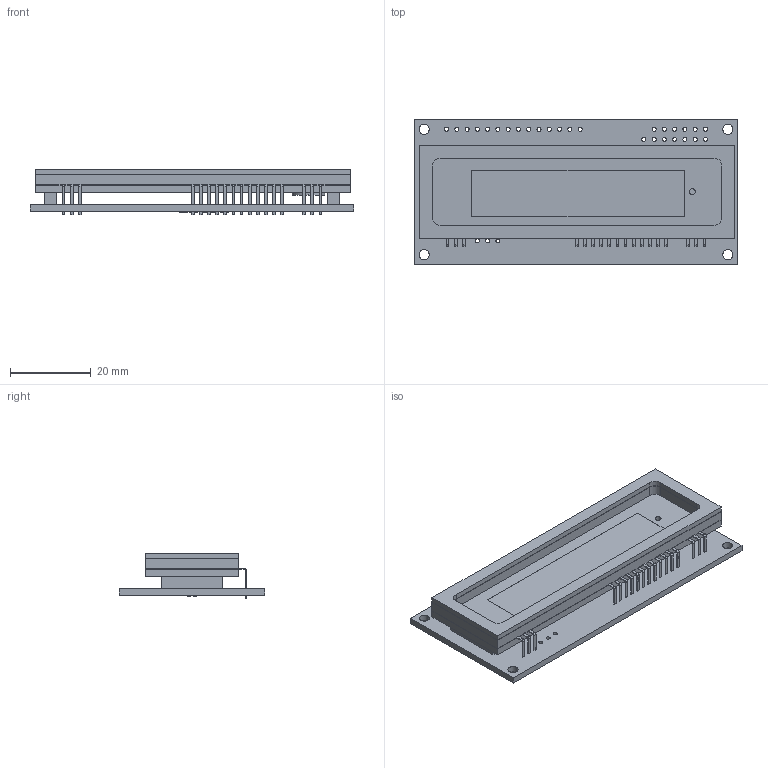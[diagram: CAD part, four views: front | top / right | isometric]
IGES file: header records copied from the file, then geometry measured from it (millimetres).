
Start section:  PTC IGES file: gu112x16g-7000b.igs
Global section: file name: gu112x16g-7000b.igs; native system: Pro/ENGINEER by Parametric Technology Corporation; preprocessor: 2010280; author: samx; organization: Unknown; date: 20140522.112102; units: millimetre
Bounding box: 80 x 36 x 11.3 mm (x, y, z)
Volume: 10418.1 mm3; surface area: 14338.6 mm2
Topology: 2 solids, 2 shells, 429 faces, 1296 edges, 852 vertices
Faces by surface type: bspline 313, revolution 116
